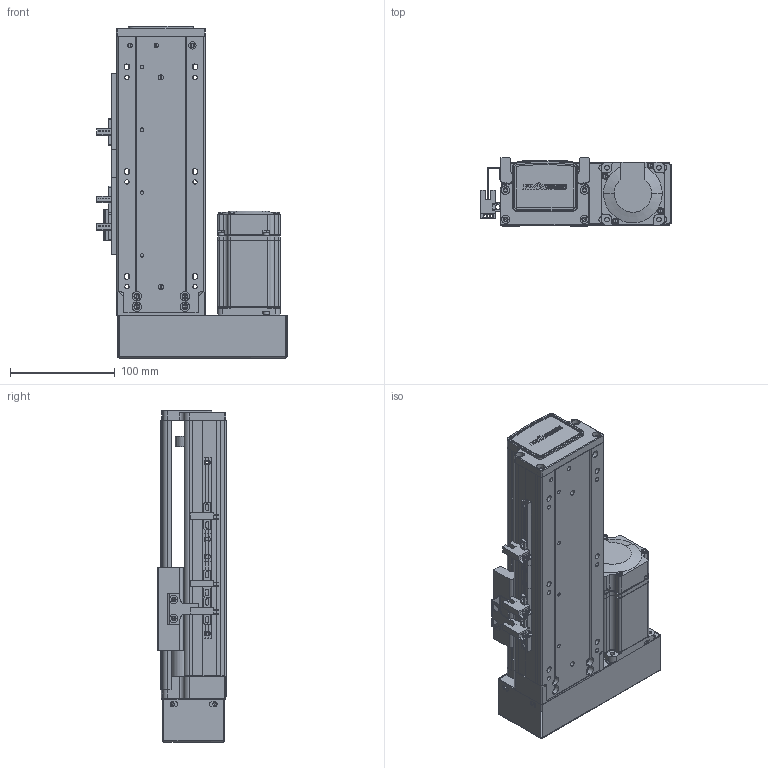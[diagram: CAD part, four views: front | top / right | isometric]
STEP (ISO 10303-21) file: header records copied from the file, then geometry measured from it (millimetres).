
FILE_DESCRIPTION (( 'STEP AP203' ), '1' );
FILE_NAME ('RY80-L1620-300-LK.SLDASM_100.step', '2021-02-20T07:16:27', ( '盈信电脑' ), ( '东莞市道滘镇水果街19号' ), 'SwSTEP 2.0', 'SolidWorks 2012', '' );
FILE_SCHEMA (( 'CONFIG_CONTROL_DESIGN' ));
Products named in the file (15): RY80-L1620-300-LK.SLDASM_100; 滅袉蝶18-24; RY80俋离覜茼え; 覜茼ん672; T倰羞; RY80酘殏俋欶; 1; 侂狟200W萇儂; RY80酘莞萇儂假蚾啣; RY80转接电机端支撑座; 滅袉蝶18-10; RY80綴裔啣; RY80-300蛌諉倰第奻裔啣-LK_100; RY80臏賑輸; RY80-300蛌諉倰第菁釱-LK_100
Assembly tree (17 placements, depth 3):
  RY80-L1620-300-LK.SLDASM_100
    RY80-300蛌諉倰第菁釱-LK_100
    RY80臏賑輸
    RY80-300蛌諉倰第奻裔啣-LK_100
    RY80綴裔啣
    滅袉蝶18-10
    RY80转接电机端支撑座
    侂狟200W萇儂
      1
    RY80酘莞萇儂假蚾啣
    RY80酘殏俋欶
    覜茼ん672  x3
    T倰羞  x2
    RY80俋离覜茼え
    滅袉蝶18-24
Bounding box: 181.7 x 65 x 317 mm (x, y, z)
Volume: 981477.4 mm3; surface area: 347924.5 mm2
Topology: 16 solids, 16 shells, 2032 faces, 5559 edges, 3597 vertices
Faces by surface type: plane 1147, cylinder 688, cone 135, bspline 62
Entity records: 63035 total; most frequent: CARTESIAN_POINT 15265, ORIENTED_EDGE 9806, DIRECTION 9272, EDGE_CURVE 4903, VERTEX_POINT 3213, LINE 3168, VECTOR 3168, AXIS2_PLACEMENT_3D 3052
